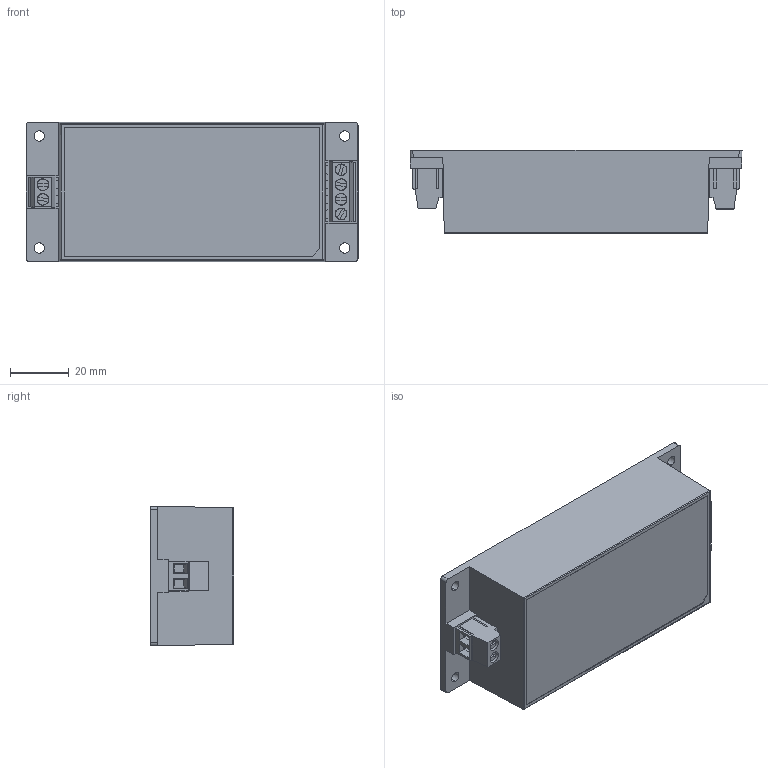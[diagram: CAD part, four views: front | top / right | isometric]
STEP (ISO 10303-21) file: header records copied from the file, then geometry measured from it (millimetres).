
FILE_DESCRIPTION (( 'STEP AP214' ), '1' );
FILE_NAME ('ECE80-S.STEP', '2017-02-23T13:40:16', ( '' ), ( '' ), 'SwSTEP 2.0', 'SolidWorks 2016', '' );
FILE_SCHEMA (( 'AUTOMOTIVE_DESIGN' ));
Length unit declared in the file: inch
Products named in the file (7): ECE80-S BASE; ECE60-S PCB; ECE60 SERIES-S; ECE80-S CASE; EK508V-4; EK508V-2; ECE80-S
Assembly tree (6 placements, depth 2):
  ECE80-S
    EK508V-2
    EK508V-4
    ECE80-S CASE
    ECE60 SERIES-S
    ECE60-S PCB
    ECE80-S BASE
Bounding box: 113 x 28.45 x 47.5 mm (x, y, z)
Volume: 29481 mm3; surface area: 46817.5 mm2
Topology: 6 solids, 6 shells, 560 faces, 1491 edges, 971 vertices
Faces by surface type: plane 509, cylinder 50, bspline 1
Entity records: 25295 total; most frequent: CARTESIAN_POINT 3656, ORIENTED_EDGE 2982, DIRECTION 2717, EDGE_CURVE 1491, LINE 1361, VECTOR 1361, VERTEX_POINT 971, AXIS2_PLACEMENT_3D 678
